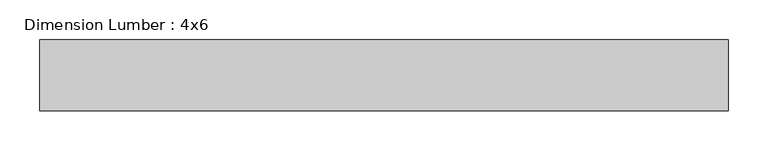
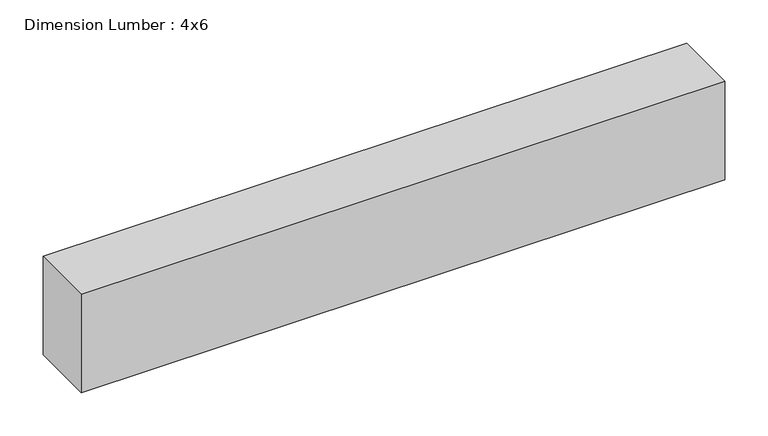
"""IFC4 building model written with IfcOpenShell, lengths in millimetres: beam geometry, Dimension Lumber : 4x6."""

from ifc_helpers import new_model, si_unit, frame, origin, place, context, project, spatial, polyline, outline, extrude, source, transform, mapped, element, save


def dimension_lumber_4x6_aabb1321(model_context):
    return source(origin(), model_context, "Body", "SweptSolid", [
        extrude(outline(polyline([(441.325, 44.45), (441.325, -44.45), (-422.275, -44.45), (-422.275, 44.45), (441.325, 44.45)])), frame((0.0, 0.0, -69.85), z_axis=(0.0, 0.0, 1.0), x_axis=(1.0, 0.0, 0.0)), (0.0, 0.0, 1.0), 139.7),
    ])


if __name__ == "__main__":
    model = new_model("IFC4")
    model_context = context("Model", 3, world=origin())
    ifc_project = project(units=[si_unit("LENGTHUNIT", "METRE", prefix="MILLI")], contexts=[model_context])
    site = spatial("IfcSite", under=ifc_project)
    building = spatial("IfcBuilding", under=site)
    placement = place(None, origin())
    dimension_lumber_4x6_shape = dimension_lumber_4x6_aabb1321(model_context)
    element("IfcBeam", 1, ObjectType="Dimension Lumber : 4x6", at=placement, inside=building, context=model_context, shape_type="MappedRepresentation", body=[
        mapped(dimension_lumber_4x6_shape, transform((0.0, 0.0, 0.0), x_axis=(1.0, 0.0, 0.0), y_axis=(0.0, 1.0, 0.0), z_axis=(0.0, 0.0, 1.0))),
    ])
    save(model, "model.ifc")
